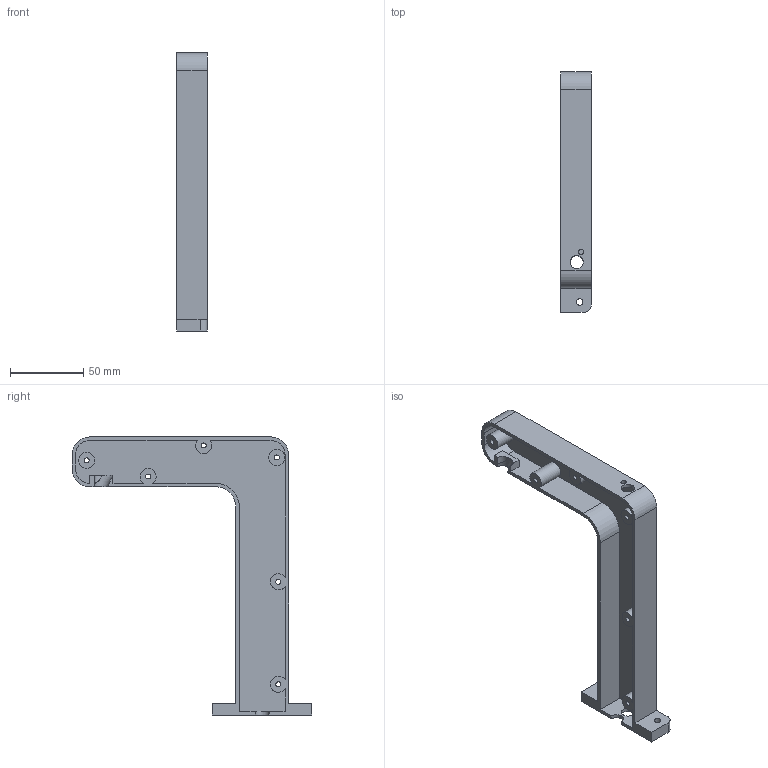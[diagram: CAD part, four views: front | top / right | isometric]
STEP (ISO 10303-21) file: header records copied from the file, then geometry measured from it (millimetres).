
FILE_DESCRIPTION(('FreeCAD Model'),'2;1');
FILE_NAME('Open CASCADE Shape Model','2026-11-06T11:24:15',('FreeCAD'),( 'FreeCAD'),'Open CASCADE STEP processor 7.8','FreeCAD','Unknown');
FILE_SCHEMA(('AUTOMOTIVE_DESIGN { 1 0 10303 214 1 1 1 1 }'));
Length unit declared in the file: millimetre
Products named in the file (1): Open CASCADE STEP translator 7.8 4
Bounding box: 21 x 164 x 190 mm (x, y, z)
Volume: 67959.2 mm3; surface area: 53017.9 mm2
Topology: 1 solids, 1 shells, 74 faces, 196 edges, 132 vertices
Faces by surface type: plane 36, cylinder 35, torus 2, extrusion 1
Full cylindrical faces by diameter (mm): 3.4 x6, 3.6 x1, 4.5 x2, 6 x6, 9 x2, 11 x2
Entity records: 2593 total; most frequent: CARTESIAN_POINT 622, DIRECTION 419, ORIENTED_EDGE 392, EDGE_CURVE 196, AXIS2_PLACEMENT_3D 154, VERTEX_POINT 132, VECTOR 111, LINE 110
